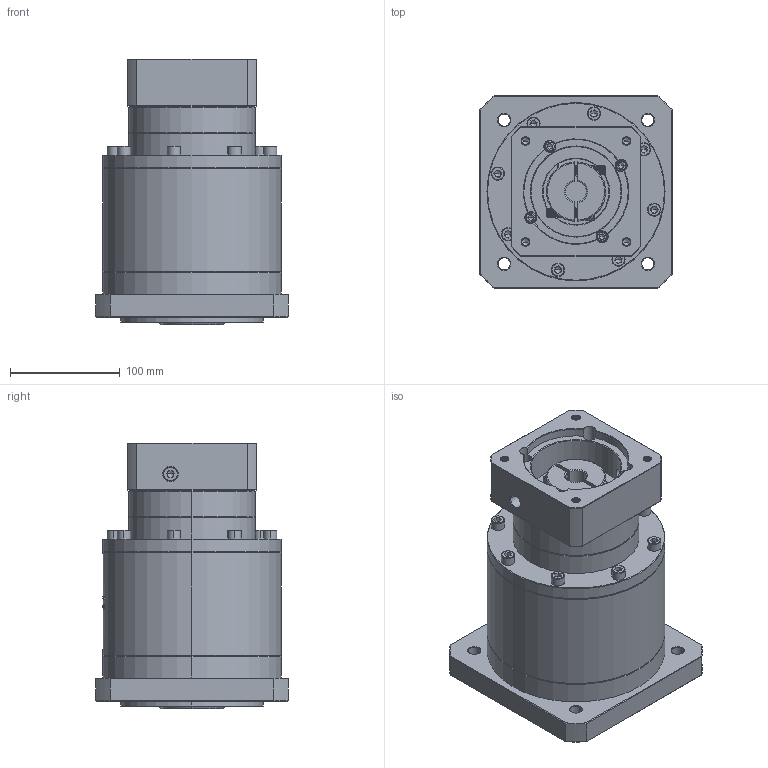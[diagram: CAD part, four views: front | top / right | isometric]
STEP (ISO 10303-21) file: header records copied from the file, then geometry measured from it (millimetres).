
FILE_DESCRIPTION (( 'STEP AP214' ), '1' );
FILE_NAME ('ZF160-K35-L3-19-95-130-M8.step', '2023-03-22T03:59:58', ( '' ), ( '' ), 'SwSTEP 2.0', 'SolidWorks 2016', '' );
FILE_SCHEMA (( 'AUTOMOTIVE_DESIGN' ));
Length unit declared in the file: millimetre
Products named in the file (1): ZF160-K35-L3-19-95-130-M8
Bounding box: 175 x 175 x 241.7 mm (x, y, z)
Volume: 4052779 mm3; surface area: 275437 mm2
Topology: 6 solids, 6 shells, 1805 faces, 4548 edges, 2864 vertices
Faces by surface type: plane 739, cylinder 450, cone 355, bspline 205, torus 56
Entity records: 92805 total; most frequent: CARTESIAN_POINT 31737, ORIENTED_EDGE 8992, DIRECTION 7953, EDGE_CURVE 4496, VERTEX_POINT 2864, AXIS2_PLACEMENT_3D 2754, LINE 2445, VECTOR 2445
